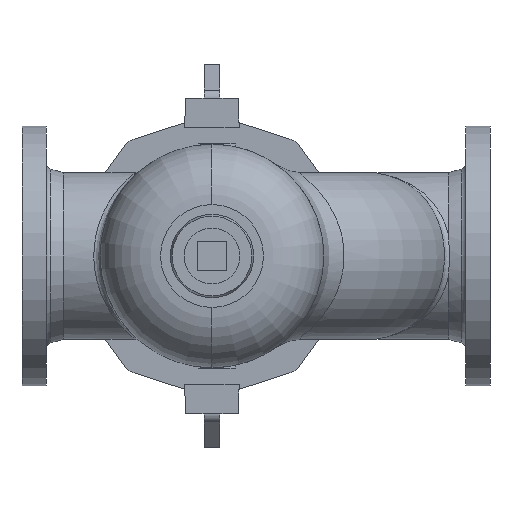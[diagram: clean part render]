
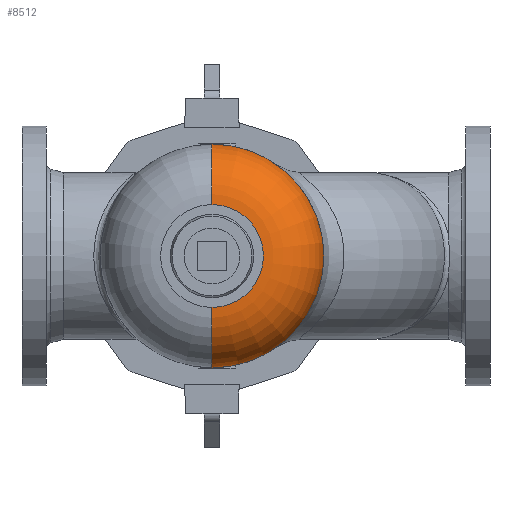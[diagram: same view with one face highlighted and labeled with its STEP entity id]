
A CAD part, front view. The second image highlights one B-rep face of the part: STEP entity #8512.
In plain terms, the highlighted toroidal (fillet/blend) face has major radius 55.5 mm and minor radius 65 mm.
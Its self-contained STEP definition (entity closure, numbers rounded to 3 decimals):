
#124 = EDGE_CURVE ( 'NONE', #1072, #1698, #6991, .T. ) ;
#213 = FACE_OUTER_BOUND ( 'NONE', #8867, .T. ) ;
#386 = CARTESIAN_POINT ( 'NONE',  ( 0., -306., 0. ) ) ;
#552 = CARTESIAN_POINT ( 'NONE',  ( 0., -371., 0. ) ) ;
#814 = CARTESIAN_POINT ( 'NONE',  ( 0., -306., 0. ) ) ;
#846 = AXIS2_PLACEMENT_3D ( 'NONE', #9771, #8869, #2574 ) ;
#1072 = VERTEX_POINT ( 'NONE', #5900 ) ;
#1588 = AXIS2_PLACEMENT_3D ( 'NONE', #8085, #5754, #3317 ) ;
#1698 = VERTEX_POINT ( 'NONE', #8882 ) ;
#1902 = ORIENTED_EDGE ( 'NONE', *, *, #9186, .F. ) ;
#2394 = EDGE_CURVE ( 'NONE', #5186, #5240, #5409, .T. ) ;
#2441 = CIRCLE ( 'NONE', #8351, 55.5 ) ;
#2511 = ORIENTED_EDGE ( 'NONE', *, *, #2394, .T. ) ;
#2574 = DIRECTION ( 'NONE',  ( 0., 0., -1. ) ) ;
#3065 = TOROIDAL_SURFACE ( 'NONE', #4938, 55.5, 65. ) ;
#3317 = DIRECTION ( 'NONE',  ( 0., 0., 1. ) ) ;
#3737 = DIRECTION ( 'NONE',  ( 0., 0., 1. ) ) ;
#3952 = DIRECTION ( 'NONE',  ( 0., 1., 0. ) ) ;
#4045 = DIRECTION ( 'NONE',  ( 0., 1., 0. ) ) ;
#4302 = ORIENTED_EDGE ( 'NONE', *, *, #124, .F. ) ;
#4938 = AXIS2_PLACEMENT_3D ( 'NONE', #814, #4045, #9698 ) ;
#5186 = VERTEX_POINT ( 'NONE', #8343 ) ;
#5240 = VERTEX_POINT ( 'NONE', #7704 ) ;
#5409 = CIRCLE ( 'NONE', #846, 65. ) ;
#5754 = DIRECTION ( 'NONE',  ( -1., 0., 0. ) ) ;
#5900 = CARTESIAN_POINT ( 'NONE',  ( 0., -371., 55.5 ) ) ;
#6266 = AXIS2_PLACEMENT_3D ( 'NONE', #386, #8437, #3737 ) ;
#6924 = CIRCLE ( 'NONE', #6266, 120.5 ) ;
#6954 = DIRECTION ( 'NONE',  ( 0., 0., 1. ) ) ;
#6991 = CIRCLE ( 'NONE', #1588, 65. ) ;
#7704 = CARTESIAN_POINT ( 'NONE',  ( 0., -306., -120.5 ) ) ;
#8085 = CARTESIAN_POINT ( 'NONE',  ( 0., -306., 55.5 ) ) ;
#8343 = CARTESIAN_POINT ( 'NONE',  ( 0., -371., -55.5 ) ) ;
#8351 = AXIS2_PLACEMENT_3D ( 'NONE', #552, #3952, #6954 ) ;
#8437 = DIRECTION ( 'NONE',  ( 0., 1., 0. ) ) ;
#8512 = ADVANCED_FACE ( 'NONE', ( #213 ), #3065, .T. ) ;
#8867 = EDGE_LOOP ( 'NONE', ( #9973, #2511, #1902, #4302 ) ) ;
#8869 = DIRECTION ( 'NONE',  ( 1., 0., 0. ) ) ;
#8882 = CARTESIAN_POINT ( 'NONE',  ( 0., -306., 120.5 ) ) ;
#9186 = EDGE_CURVE ( 'NONE', #1698, #5240, #6924, .T. ) ;
#9698 = DIRECTION ( 'NONE',  ( 0., 0., 1. ) ) ;
#9771 = CARTESIAN_POINT ( 'NONE',  ( 0., -306., -55.5 ) ) ;
#9973 = ORIENTED_EDGE ( 'NONE', *, *, #10155, .T. ) ;
#10155 = EDGE_CURVE ( 'NONE', #1072, #5186, #2441, .T. ) ;
